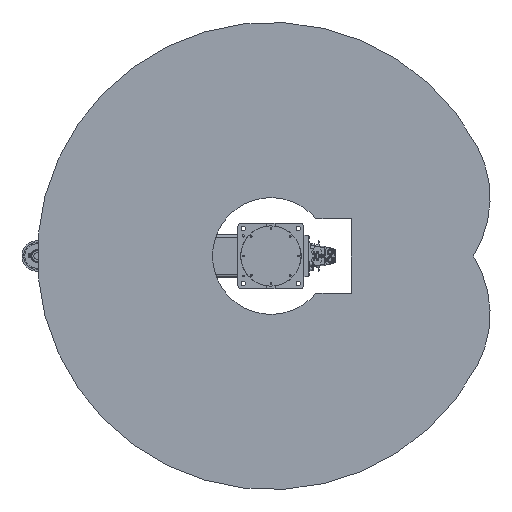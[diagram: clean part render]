
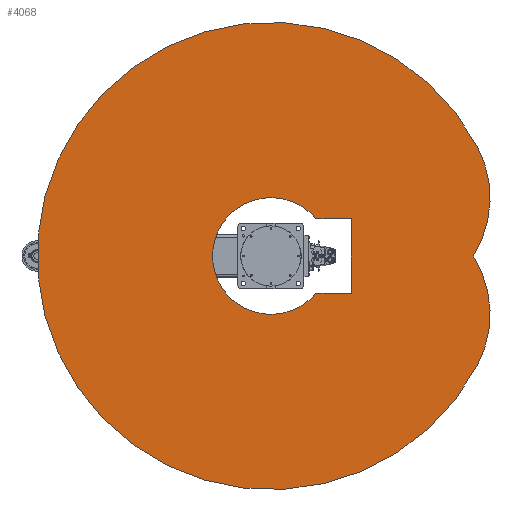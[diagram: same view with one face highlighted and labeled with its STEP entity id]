
A CAD part, front view. The second image highlights one B-rep face of the part: STEP entity #4068.
In plain terms, the highlighted planar face has unit normal (0, -1, 0).
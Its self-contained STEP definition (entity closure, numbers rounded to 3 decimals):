
#4068 = ADVANCED_FACE( '', ( #10108, #10109 ), #10110, .F. );
#10108 = FACE_BOUND( '', #18899, .T. );
#10109 = FACE_OUTER_BOUND( '', #18900, .T. );
#10110 = PLANE( '', #18901 );
#18899 = EDGE_LOOP( '', ( #31951, #31952, #31953, #31954 ) );
#18900 = EDGE_LOOP( '', ( #31955, #31956, #31957 ) );
#18901 = AXIS2_PLACEMENT_3D( '', #31958, #31959, #31960 );
#31951 = ORIENTED_EDGE( '', *, *, #49503, .T. );
#31952 = ORIENTED_EDGE( '', *, *, #47537, .T. );
#31953 = ORIENTED_EDGE( '', *, *, #49504, .T. );
#31954 = ORIENTED_EDGE( '', *, *, #49505, .T. );
#31955 = ORIENTED_EDGE( '', *, *, #49506, .F. );
#31956 = ORIENTED_EDGE( '', *, *, #49507, .F. );
#31957 = ORIENTED_EDGE( '', *, *, #49508, .F. );
#31958 = CARTESIAN_POINT( '', ( 105.631, 0., 198.663 ) );
#31959 = DIRECTION( '', ( 0., 1., 0. ) );
#31960 = DIRECTION( '', ( 0., 0., 1. ) );
#47537 = EDGE_CURVE( '', #56620, #56621, #56622, .T. );
#49503 = EDGE_CURVE( '', #59809, #56620, #59810, .T. );
#49504 = EDGE_CURVE( '', #56621, #59811, #59812, .T. );
#49505 = EDGE_CURVE( '', #59811, #59809, #59813, .T. );
#49506 = EDGE_CURVE( '', #59814, #59815, #59816, .T. );
#49507 = EDGE_CURVE( '', #59817, #59814, #59818, .T. );
#49508 = EDGE_CURVE( '', #59815, #59817, #59819, .T. );
#56620 = VERTEX_POINT( '', #70582 );
#56621 = VERTEX_POINT( '', #70583 );
#56622 = CIRCLE( '', #70584, 212.4 );
#59809 = VERTEX_POINT( '', #75783 );
#59810 = LINE( '', #75784, #75785 );
#59811 = VERTEX_POINT( '', #75786 );
#59812 = LINE( '', #75787, #75788 );
#59813 = LINE( '', #75789, #75790 );
#59814 = VERTEX_POINT( '', #75791 );
#59815 = VERTEX_POINT( '', #75792 );
#59816 = CIRCLE( '', #75793, 400. );
#59817 = VERTEX_POINT( '', #75794 );
#59818 = CIRCLE( '', #75795, 400. );
#59819 = CIRCLE( '', #75796, 850. );
#70582 = CARTESIAN_POINT( '', ( 135., 0., 163.978 ) );
#70583 = CARTESIAN_POINT( '', ( -135., 0., 163.978 ) );
#70584 = AXIS2_PLACEMENT_3D( '', #86406, #86407, #86408 );
#75783 = CARTESIAN_POINT( '', ( 135., 0., 292. ) );
#75784 = CARTESIAN_POINT( '', ( 135., 0., 292. ) );
#75785 = VECTOR( '', #88932, 1000. );
#75786 = CARTESIAN_POINT( '', ( -135., 0., 292. ) );
#75787 = CARTESIAN_POINT( '', ( -135., 0., 163.978 ) );
#75788 = VECTOR( '', #88933, 1000. );
#75789 = CARTESIAN_POINT( '', ( -135., 0., 292. ) );
#75790 = VECTOR( '', #88934, 1000. );
#75791 = CARTESIAN_POINT( '', ( 0., 0., 736.985 ) );
#75792 = CARTESIAN_POINT( '', ( 399.051, 0., 750.505 ) );
#75793 = AXIS2_PLACEMENT_3D( '', #88935, #88936, #88937 );
#75794 = CARTESIAN_POINT( '', ( -399.051, 0., 750.505 ) );
#75795 = AXIS2_PLACEMENT_3D( '', #88938, #88939, #88940 );
#75796 = AXIS2_PLACEMENT_3D( '', #88941, #88942, #88943 );
#86406 = CARTESIAN_POINT( '', ( 0., 0., 0. ) );
#86407 = DIRECTION( '', ( 0., 1., 0. ) );
#86408 = DIRECTION( '', ( 1., 0., 0. ) );
#88932 = DIRECTION( '', ( 0., 0., -1. ) );
#88933 = DIRECTION( '', ( 0., 0., 1. ) );
#88934 = DIRECTION( '', ( 1., 0., 0. ) );
#88935 = CARTESIAN_POINT( '', ( 211.262, 0., 397.326 ) );
#88936 = DIRECTION( '', ( 0., 1., 0. ) );
#88937 = DIRECTION( '', ( 1., 0., 0. ) );
#88938 = CARTESIAN_POINT( '', ( -211.262, 0., 397.326 ) );
#88939 = DIRECTION( '', ( 0., 1., 0. ) );
#88940 = DIRECTION( '', ( 1., 0., 0. ) );
#88941 = CARTESIAN_POINT( '', ( 0., 0., 0. ) );
#88942 = DIRECTION( '', ( 0., 1., 0. ) );
#88943 = DIRECTION( '', ( 1., 0., 0. ) );
